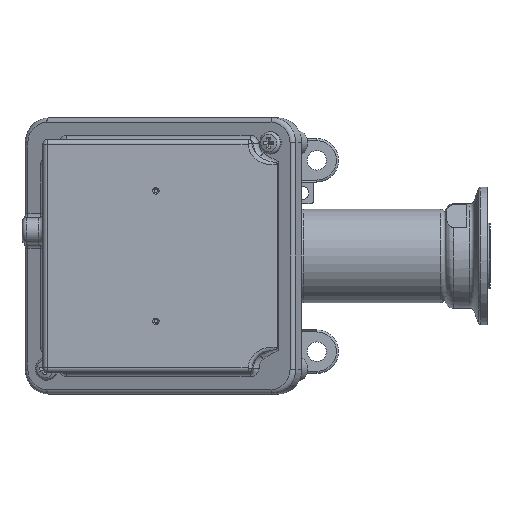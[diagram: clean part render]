
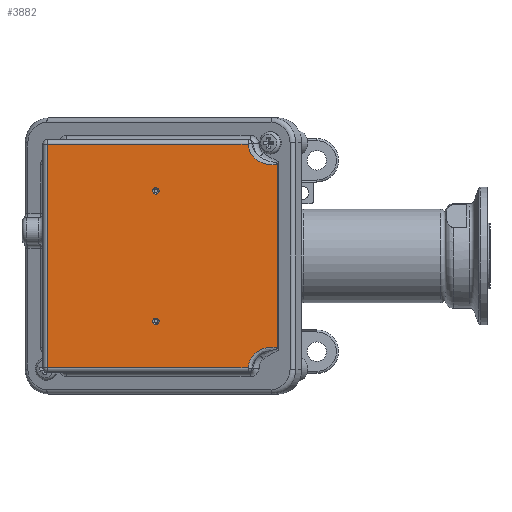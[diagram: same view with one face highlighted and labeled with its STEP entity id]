
A CAD part, left-side view. The second image highlights one B-rep face of the part: STEP entity #3882.
In plain terms, the highlighted planar face has unit normal (-1, 0.005, 0).
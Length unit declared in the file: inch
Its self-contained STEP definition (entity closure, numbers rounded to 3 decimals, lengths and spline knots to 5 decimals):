
#104 = AXIS2_PLACEMENT_3D ( 'NONE', #2935, #5368, #1101 ) ;
#115 = CARTESIAN_POINT ( 'NONE',  ( -2.32276, 0.19397, 1.6725 ) ) ;
#220 = LINE ( 'NONE', #7454, #1928 ) ;
#222 = EDGE_LOOP ( 'NONE', ( #1511 ) ) ;
#323 = DIRECTION ( 'NONE',  ( -1., 0.005, 0. ) ) ;
#366 = CARTESIAN_POINT ( 'NONE',  ( -2.31365, 1.9384, -0.938 ) ) ;
#421 = CARTESIAN_POINT ( 'NONE',  ( -2.32276, 0.19397, -1.32146 ) ) ;
#531 = CARTESIAN_POINT ( 'NONE',  ( -2.32276, 0.19397, 1.32146 ) ) ;
#569 = EDGE_CURVE ( 'NONE', #1854, #5490, #4999, .T. ) ;
#583 = EDGE_CURVE ( 'NONE', #2637, #2637, #6876, .T. ) ;
#719 = CARTESIAN_POINT ( 'NONE',  ( -2.32276, 0.19397, 1.32146 ) ) ;
#896 = CARTESIAN_POINT ( 'NONE',  ( -2.32057, 0.61286, 1.61 ) ) ;
#940 = EDGE_CURVE ( 'NONE', #1270, #5118, #1235, .T. ) ;
#996 = VERTEX_POINT ( 'NONE', #4580 ) ;
#1050 = EDGE_CURVE ( 'NONE', #996, #2424, #1700, .T. ) ;
#1101 = DIRECTION ( 'NONE',  ( -0.005, -1., 0. ) ) ;
#1235 =( BOUNDED_CURVE ( )  B_SPLINE_CURVE ( 3, ( #2862, #5891, #7015, #421 ),
 .UNSPECIFIED., .F., .F. ) 
 B_SPLINE_CURVE_WITH_KNOTS ( ( 4, 4 ),
 ( 3.18961, 4.95247 ),
 .UNSPECIFIED. ) 
 CURVE ( )  GEOMETRIC_REPRESENTATION_ITEM ( )  RATIONAL_B_SPLINE_CURVE ( ( 1., 0.757, 0.757, 1. ) ) 
 REPRESENTATION_ITEM ( '' )  );
#1270 = VERTEX_POINT ( 'NONE', #1374 ) ;
#1285 = AXIS2_PLACEMENT_3D ( 'NONE', #2146, #6451, #7567 ) ;
#1374 = CARTESIAN_POINT ( 'NONE',  ( -2.32057, 0.61286, -1.61 ) ) ;
#1430 = DIRECTION ( 'NONE',  ( 0., 0., 1. ) ) ;
#1511 = ORIENTED_EDGE ( 'NONE', *, *, #583, .F. ) ;
#1564 = EDGE_LOOP ( 'NONE', ( #7638, #4063, #4931, #2136, #3693, #3364 ) ) ;
#1601 = VECTOR ( 'NONE', #7698, 39.37008 ) ;
#1609 = AXIS2_PLACEMENT_3D ( 'NONE', #366, #323, #2807 ) ;
#1700 = LINE ( 'NONE', #4141, #1601 ) ;
#1754 = CARTESIAN_POINT ( 'NONE',  ( -2.31389, 1.8919, -0.938 ) ) ;
#1854 = VERTEX_POINT ( 'NONE', #719 ) ;
#1928 = VECTOR ( 'NONE', #7494, 39.37008 ) ;
#2136 = ORIENTED_EDGE ( 'NONE', *, *, #2846, .T. ) ;
#2146 = CARTESIAN_POINT ( 'NONE',  ( -2.32282, 0.18143, 1.6725 ) ) ;
#2380 = VECTOR ( 'NONE', #1430, 39.37008 ) ;
#2424 = VERTEX_POINT ( 'NONE', #7365 ) ;
#2637 = VERTEX_POINT ( 'NONE', #5621 ) ;
#2640 = EDGE_CURVE ( 'NONE', #7231, #7231, #4026, .T. ) ;
#2807 = DIRECTION ( 'NONE',  ( -0.005, -1., 0. ) ) ;
#2846 = EDGE_CURVE ( 'NONE', #5118, #1854, #6835, .T. ) ;
#2862 = CARTESIAN_POINT ( 'NONE',  ( -2.32057, 0.61286, -1.61 ) ) ;
#2935 = CARTESIAN_POINT ( 'NONE',  ( -2.31365, 1.9384, 0.937 ) ) ;
#3335 = DIRECTION ( 'NONE',  ( -0.005, -1., 0. ) ) ;
#3364 = ORIENTED_EDGE ( 'NONE', *, *, #4334, .T. ) ;
#3693 = ORIENTED_EDGE ( 'NONE', *, *, #569, .T. ) ;
#3733 = VECTOR ( 'NONE', #3335, 39.37008 ) ;
#3840 = FACE_BOUND ( 'NONE', #222, .T. ) ;
#3882 = ADVANCED_FACE ( 'NONE', ( #3840, #5123, #3963 ), #6408, .F. ) ;
#3963 = FACE_OUTER_BOUND ( 'NONE', #1564, .T. ) ;
#4026 = CIRCLE ( 'NONE', #1609, 0.0465 ) ;
#4063 = ORIENTED_EDGE ( 'NONE', *, *, #5521, .T. ) ;
#4141 = CARTESIAN_POINT ( 'NONE',  ( -2.3055, 3.50088, 1.6725 ) ) ;
#4334 = EDGE_CURVE ( 'NONE', #5490, #996, #220, .T. ) ;
#4534 = CARTESIAN_POINT ( 'NONE',  ( -2.32081, 0.56672, -1.61 ) ) ;
#4580 = CARTESIAN_POINT ( 'NONE',  ( -2.3055, 3.50088, 1.61 ) ) ;
#4931 = ORIENTED_EDGE ( 'NONE', *, *, #940, .T. ) ;
#4999 =( BOUNDED_CURVE ( )  B_SPLINE_CURVE ( 3, ( #531, #7170, #7783, #5336 ),
 .UNSPECIFIED., .F., .F. ) 
 B_SPLINE_CURVE_WITH_KNOTS ( ( 4, 4 ),
 ( 1.33072, 3.09357 ),
 .UNSPECIFIED. ) 
 CURVE ( )  GEOMETRIC_REPRESENTATION_ITEM ( )  RATIONAL_B_SPLINE_CURVE ( ( 1., 0.757, 0.757, 1. ) ) 
 REPRESENTATION_ITEM ( '' )  );
#5118 = VERTEX_POINT ( 'NONE', #5134 ) ;
#5123 = FACE_BOUND ( 'NONE', #7409, .T. ) ;
#5125 = LINE ( 'NONE', #4534, #3733 ) ;
#5134 = CARTESIAN_POINT ( 'NONE',  ( -2.32276, 0.19397, -1.32146 ) ) ;
#5336 = CARTESIAN_POINT ( 'NONE',  ( -2.32057, 0.61286, 1.61 ) ) ;
#5368 = DIRECTION ( 'NONE',  ( -1., 0.005, 0. ) ) ;
#5490 = VERTEX_POINT ( 'NONE', #896 ) ;
#5521 = EDGE_CURVE ( 'NONE', #2424, #1270, #5125, .T. ) ;
#5621 = CARTESIAN_POINT ( 'NONE',  ( -2.31389, 1.8919, 0.937 ) ) ;
#5891 = CARTESIAN_POINT ( 'NONE',  ( -2.32063, 0.60182, -1.39798 ) ) ;
#6408 = PLANE ( 'NONE',  #1285 ) ;
#6451 = DIRECTION ( 'NONE',  ( 1., -0.005, 0. ) ) ;
#6530 = ORIENTED_EDGE ( 'NONE', *, *, #2640, .F. ) ;
#6835 = LINE ( 'NONE', #115, #2380 ) ;
#6876 = CIRCLE ( 'NONE', #104, 0.0465 ) ;
#7015 = CARTESIAN_POINT ( 'NONE',  ( -2.32159, 0.41746, -1.27099 ) ) ;
#7170 = CARTESIAN_POINT ( 'NONE',  ( -2.32159, 0.41746, 1.27099 ) ) ;
#7231 = VERTEX_POINT ( 'NONE', #1754 ) ;
#7365 = CARTESIAN_POINT ( 'NONE',  ( -2.3055, 3.50088, -1.61 ) ) ;
#7409 = EDGE_LOOP ( 'NONE', ( #6530 ) ) ;
#7454 = CARTESIAN_POINT ( 'NONE',  ( -2.32282, 0.18143, 1.61 ) ) ;
#7494 = DIRECTION ( 'NONE',  ( 0.005, 1., 0. ) ) ;
#7567 = DIRECTION ( 'NONE',  ( 0.005, 1., 0. ) ) ;
#7638 = ORIENTED_EDGE ( 'NONE', *, *, #1050, .T. ) ;
#7698 = DIRECTION ( 'NONE',  ( 0., 0., -1. ) ) ;
#7783 = CARTESIAN_POINT ( 'NONE',  ( -2.32063, 0.60182, 1.39798 ) ) ;
